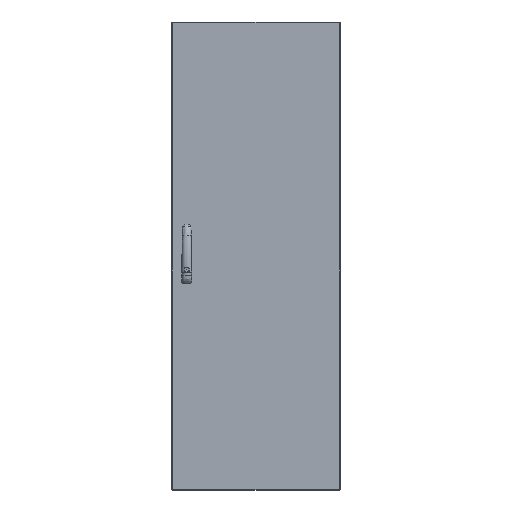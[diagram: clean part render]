
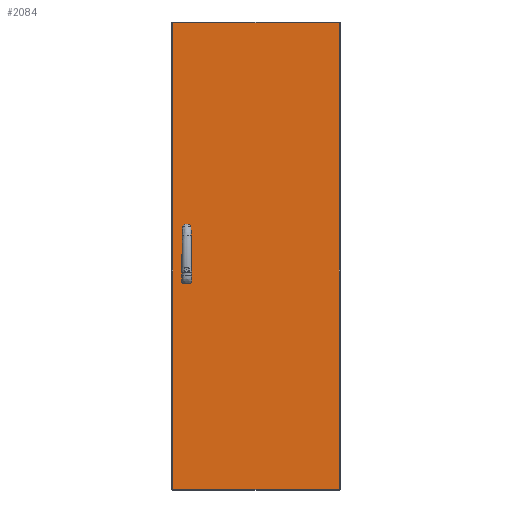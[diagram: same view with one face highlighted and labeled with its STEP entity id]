
A CAD part, top view. The second image highlights one B-rep face of the part: STEP entity #2084.
In plain terms, the highlighted planar face has unit normal (0, 0, 1).
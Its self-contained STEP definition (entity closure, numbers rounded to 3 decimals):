
#39 = ORIENTED_EDGE ( 'NONE', *, *, #3528, .F. ) ;
#58 = CIRCLE ( 'NONE', #4959, 9.5 ) ;
#60 = EDGE_CURVE ( 'NONE', #2836, #5190, #3046, .T. ) ;
#71 = CARTESIAN_POINT ( 'NONE',  ( 559., 1560., 19. ) ) ;
#97 = CARTESIAN_POINT ( 'NONE',  ( 40.53, 747.75, 19. ) ) ;
#154 = EDGE_CURVE ( 'NONE', #2967, #8318, #2392, .T. ) ;
#230 = LINE ( 'NONE', #2008, #3530 ) ;
#467 = VECTOR ( 'NONE', #2073, 1000. ) ;
#476 = CARTESIAN_POINT ( 'NONE',  ( 40.53, 747.75, 19. ) ) ;
#724 = LINE ( 'NONE', #71, #467 ) ;
#803 = DIRECTION ( 'NONE',  ( 0., 0., 1. ) ) ;
#883 = VECTOR ( 'NONE', #7355, 1000. ) ;
#981 = CARTESIAN_POINT ( 'NONE',  ( 40.53, 860.25, 19. ) ) ;
#984 = DIRECTION ( 'NONE',  ( 0., 0., -1. ) ) ;
#1026 = EDGE_CURVE ( 'NONE', #2590, #2836, #3370, .T. ) ;
#1081 = PLANE ( 'NONE',  #6910 ) ;
#1217 = CARTESIAN_POINT ( 'NONE',  ( 59.53, 812.25, 19. ) ) ;
#1667 = DIRECTION ( 'NONE',  ( 1., 0., 0. ) ) ;
#1742 = CARTESIAN_POINT ( 'NONE',  ( 3., 1560., 19. ) ) ;
#1864 = DIRECTION ( 'NONE',  ( 0., 0., 1. ) ) ;
#2008 = CARTESIAN_POINT ( 'NONE',  ( 59.53, 747.75, 19. ) ) ;
#2045 = LINE ( 'NONE', #4643, #883 ) ;
#2071 = CARTESIAN_POINT ( 'NONE',  ( 50.03, 812.25, 19. ) ) ;
#2073 = DIRECTION ( 'NONE',  ( 0., 1., 0. ) ) ;
#2084 = ADVANCED_FACE ( 'NONE', ( #3746, #6362, #4324 ), #1081, .F. ) ;
#2169 = DIRECTION ( 'NONE',  ( 0., -1., 0. ) ) ;
#2179 = CARTESIAN_POINT ( 'NONE',  ( 59.53, 860.25, 19. ) ) ;
#2236 = DIRECTION ( 'NONE',  ( 1., 0., 0. ) ) ;
#2248 = CARTESIAN_POINT ( 'NONE',  ( 40.53, 699.75, 19. ) ) ;
#2392 = LINE ( 'NONE', #1742, #3924 ) ;
#2405 = CARTESIAN_POINT ( 'NONE',  ( 3., 1557., 19. ) ) ;
#2590 = VERTEX_POINT ( 'NONE', #7971 ) ;
#2663 = VECTOR ( 'NONE', #3090, 1000. ) ;
#2836 = VERTEX_POINT ( 'NONE', #97 ) ;
#2967 = VERTEX_POINT ( 'NONE', #2405 ) ;
#3046 = LINE ( 'NONE', #476, #2663 ) ;
#3090 = DIRECTION ( 'NONE',  ( 0., -1., 0. ) ) ;
#3096 = EDGE_CURVE ( 'NONE', #8318, #6713, #7937, .T. ) ;
#3258 = VECTOR ( 'NONE', #4908, 1000. ) ;
#3370 = CIRCLE ( 'NONE', #4074, 9.5 ) ;
#3528 = EDGE_CURVE ( 'NONE', #8709, #7332, #4320, .T. ) ;
#3530 = VECTOR ( 'NONE', #6065, 1000. ) ;
#3731 = CARTESIAN_POINT ( 'NONE',  ( 50.03, 747.75, 19. ) ) ;
#3746 = FACE_BOUND ( 'NONE', #7972, .T. ) ;
#3796 = EDGE_CURVE ( 'NONE', #4711, #2590, #230, .T. ) ;
#3830 = AXIS2_PLACEMENT_3D ( 'NONE', #7067, #1864, #8059 ) ;
#3841 = AXIS2_PLACEMENT_3D ( 'NONE', #4807, #6142, #4726 ) ;
#3924 = VECTOR ( 'NONE', #4378, 1000. ) ;
#3942 = ORIENTED_EDGE ( 'NONE', *, *, #3796, .F. ) ;
#4032 = CARTESIAN_POINT ( 'NONE',  ( 559., 1557., 19. ) ) ;
#4052 = CARTESIAN_POINT ( 'NONE',  ( 559., 3., 19. ) ) ;
#4074 = AXIS2_PLACEMENT_3D ( 'NONE', #3731, #5065, #1667 ) ;
#4112 = CIRCLE ( 'NONE', #3830, 9.5 ) ;
#4236 = LINE ( 'NONE', #4808, #7511 ) ;
#4320 = LINE ( 'NONE', #981, #7633 ) ;
#4324 = FACE_OUTER_BOUND ( 'NONE', #6256, .T. ) ;
#4378 = DIRECTION ( 'NONE',  ( 0., -1., 0. ) ) ;
#4483 = ORIENTED_EDGE ( 'NONE', *, *, #154, .T. ) ;
#4643 = CARTESIAN_POINT ( 'NONE',  ( 0., 1557., 19. ) ) ;
#4711 = VERTEX_POINT ( 'NONE', #7624 ) ;
#4726 = DIRECTION ( 'NONE',  ( 1., 0., 0. ) ) ;
#4807 = CARTESIAN_POINT ( 'NONE',  ( 50.03, 860.25, 19. ) ) ;
#4808 = CARTESIAN_POINT ( 'NONE',  ( 59.53, 860.25, 19. ) ) ;
#4908 = DIRECTION ( 'NONE',  ( 1., 0., 0. ) ) ;
#4959 = AXIS2_PLACEMENT_3D ( 'NONE', #2071, #803, #2236 ) ;
#5065 = DIRECTION ( 'NONE',  ( 0., 0., 1. ) ) ;
#5095 = EDGE_CURVE ( 'NONE', #7717, #2967, #2045, .T. ) ;
#5190 = VERTEX_POINT ( 'NONE', #2248 ) ;
#5204 = EDGE_CURVE ( 'NONE', #5499, #7047, #4236, .T. ) ;
#5382 = EDGE_CURVE ( 'NONE', #5190, #4711, #4112, .T. ) ;
#5499 = VERTEX_POINT ( 'NONE', #1217 ) ;
#5630 = EDGE_CURVE ( 'NONE', #7332, #5499, #58, .T. ) ;
#5662 = CARTESIAN_POINT ( 'NONE',  ( 0., 3., 19. ) ) ;
#5716 = ORIENTED_EDGE ( 'NONE', *, *, #3096, .T. ) ;
#5914 = ORIENTED_EDGE ( 'NONE', *, *, #5630, .F. ) ;
#5948 = ORIENTED_EDGE ( 'NONE', *, *, #5382, .F. ) ;
#6065 = DIRECTION ( 'NONE',  ( 0., 1., 0. ) ) ;
#6142 = DIRECTION ( 'NONE',  ( 0., 0., 1. ) ) ;
#6161 = ORIENTED_EDGE ( 'NONE', *, *, #1026, .F. ) ;
#6256 = EDGE_LOOP ( 'NONE', ( #7906, #6818, #4483, #5716 ) ) ;
#6362 = FACE_BOUND ( 'NONE', #7249, .T. ) ;
#6525 = CIRCLE ( 'NONE', #3841, 9.5 ) ;
#6548 = CARTESIAN_POINT ( 'NONE',  ( 0., 1560., 19. ) ) ;
#6713 = VERTEX_POINT ( 'NONE', #4052 ) ;
#6770 = EDGE_CURVE ( 'NONE', #6713, #7717, #724, .T. ) ;
#6818 = ORIENTED_EDGE ( 'NONE', *, *, #5095, .T. ) ;
#6910 = AXIS2_PLACEMENT_3D ( 'NONE', #6548, #984, #8370 ) ;
#7047 = VERTEX_POINT ( 'NONE', #2179 ) ;
#7067 = CARTESIAN_POINT ( 'NONE',  ( 50.03, 699.75, 19. ) ) ;
#7219 = ORIENTED_EDGE ( 'NONE', *, *, #5204, .F. ) ;
#7249 = EDGE_LOOP ( 'NONE', ( #39, #8681, #7219, #5914 ) ) ;
#7332 = VERTEX_POINT ( 'NONE', #7819 ) ;
#7343 = CARTESIAN_POINT ( 'NONE',  ( 40.53, 860.25, 19. ) ) ;
#7355 = DIRECTION ( 'NONE',  ( -1., 0., 0. ) ) ;
#7358 = ORIENTED_EDGE ( 'NONE', *, *, #60, .F. ) ;
#7511 = VECTOR ( 'NONE', #8274, 1000. ) ;
#7624 = CARTESIAN_POINT ( 'NONE',  ( 59.53, 699.75, 19. ) ) ;
#7633 = VECTOR ( 'NONE', #2169, 1000. ) ;
#7717 = VERTEX_POINT ( 'NONE', #4032 ) ;
#7735 = CARTESIAN_POINT ( 'NONE',  ( 3., 3., 19. ) ) ;
#7819 = CARTESIAN_POINT ( 'NONE',  ( 40.53, 812.25, 19. ) ) ;
#7906 = ORIENTED_EDGE ( 'NONE', *, *, #6770, .T. ) ;
#7937 = LINE ( 'NONE', #5662, #3258 ) ;
#7971 = CARTESIAN_POINT ( 'NONE',  ( 59.53, 747.75, 19. ) ) ;
#7972 = EDGE_LOOP ( 'NONE', ( #7358, #6161, #3942, #5948 ) ) ;
#8059 = DIRECTION ( 'NONE',  ( 1., 0., 0. ) ) ;
#8104 = EDGE_CURVE ( 'NONE', #7047, #8709, #6525, .T. ) ;
#8274 = DIRECTION ( 'NONE',  ( 0., 1., 0. ) ) ;
#8318 = VERTEX_POINT ( 'NONE', #7735 ) ;
#8370 = DIRECTION ( 'NONE',  ( -1., 0., 0. ) ) ;
#8681 = ORIENTED_EDGE ( 'NONE', *, *, #8104, .F. ) ;
#8709 = VERTEX_POINT ( 'NONE', #7343 ) ;
